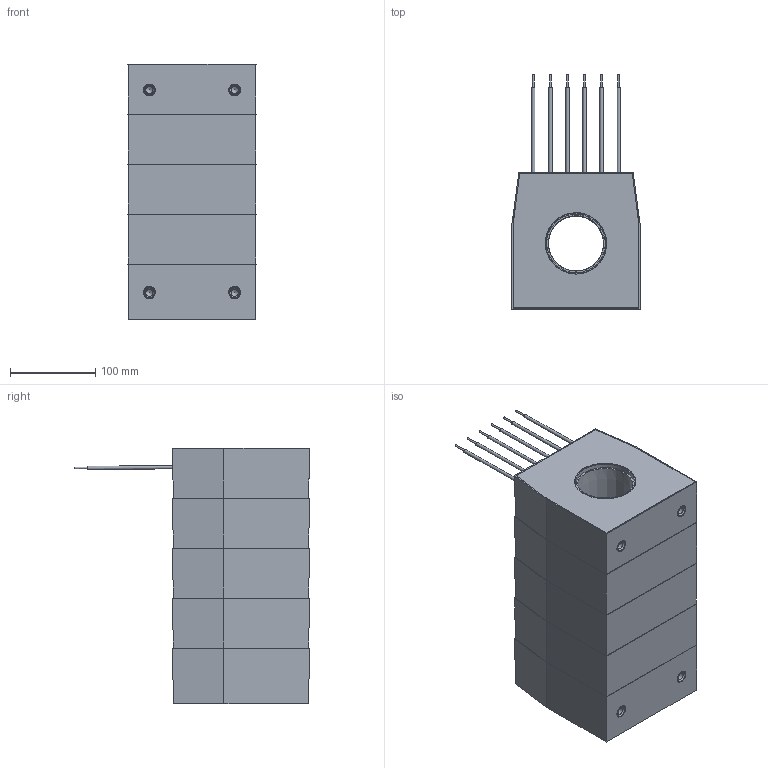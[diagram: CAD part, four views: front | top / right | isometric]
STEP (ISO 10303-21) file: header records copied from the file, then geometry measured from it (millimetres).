
FILE_DESCRIPTION(('STEP AP203'), '1');
FILE_NAME('ÒØÏ-ÍÒÇ-0,66-85Ñ (65 ìì, 5-é ãàáàðèò)', '2025-08-27T09:41:46', ('UNSPECIFIED'), ('UNSPECIFIED'), 'ASCON STEP Converter 1.3', 'ASCON Math Kernel', '');
FILE_SCHEMA(('CONFIG_CONTROL_DESIGN'));
Length unit declared in the file: millimetre
Assembly tree (21 placements, depth 2):
  (unnamed)
    (unnamed)
    (unnamed)  x3
    (unnamed)
    (unnamed)  x5
    (unnamed)  x4
    (unnamed)
    (unnamed)  x6
Bounding box: 150 x 274.82 x 299 mm (x, y, z)
Volume: 956650.6 mm3; surface area: 650048.4 mm2
Topology: 21 solids, 21 shells, 355 faces, 814 edges, 531 vertices
Faces by surface type: plane 233, cylinder 83, cone 31, torus 8
Full cylindrical faces by diameter (mm): 2 x6, 3.9 x6, 4 x5, 6 x16, 8.376 x4, 14 x8, 17 x4, 65 x1, 65.05 x1, 68.599 x10, 68.6 x1, 71 x1
Entity records: 7188 total; most frequent: CARTESIAN_POINT 911, DIRECTION 860, ORIENTED_EDGE 782, EDGE_CURVE 391, LINE 300, VECTOR 300, VERTEX_POINT 282, AXIS2_PLACEMENT_3D 280
